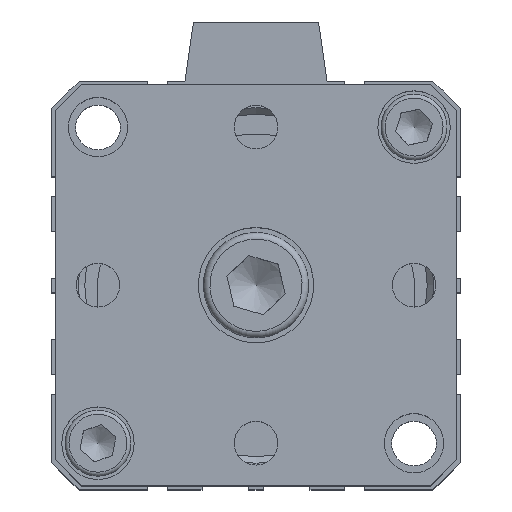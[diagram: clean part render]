
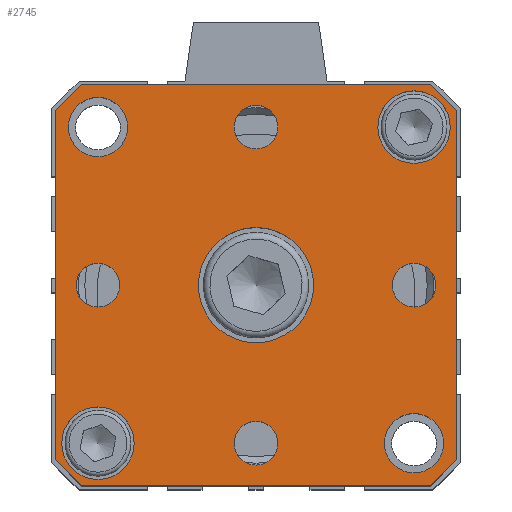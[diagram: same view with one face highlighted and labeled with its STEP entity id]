
A CAD part, top view. The second image highlights one B-rep face of the part: STEP entity #2745.
In plain terms, the highlighted planar face has unit normal (0, 0, 1).
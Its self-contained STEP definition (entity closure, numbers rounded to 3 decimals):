
#365=CARTESIAN_POINT('',(-37.557,28.294,61.6));
#366=VERTEX_POINT('',#365);
#367=CARTESIAN_POINT('',(-33.557,32.294,61.6));
#368=VERTEX_POINT('',#367);
#369=CARTESIAN_POINT('',(-37.557,28.294,61.6));
#370=DIRECTION('',(0.707,0.707,0.0));
#371=VECTOR('',#370,5.657);
#372=LINE('',#369,#371);
#373=EDGE_CURVE('',#366,#368,#372,.T.);
#417=CARTESIAN_POINT('',(19.443,32.294,61.6));
#418=VERTEX_POINT('',#417);
#419=CARTESIAN_POINT('',(-33.557,32.294,61.6));
#420=DIRECTION('',(1.0,0.0,0.0));
#421=VECTOR('',#420,53.);
#422=LINE('',#419,#421);
#423=EDGE_CURVE('',#368,#418,#422,.T.);
#440=CARTESIAN_POINT('',(23.443,28.294,61.6));
#441=VERTEX_POINT('',#440);
#442=CARTESIAN_POINT('',(19.443,32.294,61.6));
#443=DIRECTION('',(0.707,-0.707,0.0));
#444=VECTOR('',#443,5.657);
#445=LINE('',#442,#444);
#446=EDGE_CURVE('',#418,#441,#445,.T.);
#464=CARTESIAN_POINT('',(23.443,-24.706,61.6));
#465=VERTEX_POINT('',#464);
#466=CARTESIAN_POINT('',(19.443,-28.706,61.6));
#467=VERTEX_POINT('',#466);
#468=CARTESIAN_POINT('',(23.443,-24.706,61.6));
#469=DIRECTION('',(-0.707,-0.707,0.0));
#470=VECTOR('',#469,5.657);
#471=LINE('',#468,#470);
#472=EDGE_CURVE('',#465,#467,#471,.T.);
#496=CARTESIAN_POINT('',(-33.557,-28.706,61.6));
#497=VERTEX_POINT('',#496);
#498=CARTESIAN_POINT('',(19.443,-28.706,61.6));
#499=DIRECTION('',(-1.0,0.0,0.0));
#500=VECTOR('',#499,53.);
#501=LINE('',#498,#500);
#502=EDGE_CURVE('',#467,#497,#501,.T.);
#519=CARTESIAN_POINT('',(-37.557,-24.706,61.6));
#520=VERTEX_POINT('',#519);
#521=CARTESIAN_POINT('',(-33.557,-28.706,61.6));
#522=DIRECTION('',(-0.707,0.707,0.0));
#523=VECTOR('',#522,5.657);
#524=LINE('',#521,#523);
#525=EDGE_CURVE('',#497,#520,#524,.T.);
#592=CARTESIAN_POINT('',(1.693,1.794,61.6));
#593=VERTEX_POINT('',#592);
#594=CARTESIAN_POINT('',(-7.057,1.794,61.6));
#595=DIRECTION('',(0.0,0.0,-1.0));
#596=DIRECTION('',(1.0,0.0,0.0));
#597=AXIS2_PLACEMENT_3D('',#594,#595,#596);
#598=CIRCLE('',#597,8.75);
#599=EDGE_CURVE('',#593,#593,#598,.T.);
#711=CARTESIAN_POINT('',(-25.557,-22.206,61.6));
#712=VERTEX_POINT('',#711);
#713=CARTESIAN_POINT('',(-31.057,-22.206,61.6));
#714=DIRECTION('',(0.0,0.0,-1.0));
#715=DIRECTION('',(1.0,0.0,0.0));
#716=AXIS2_PLACEMENT_3D('',#713,#714,#715);
#717=CIRCLE('',#716,5.5);
#718=EDGE_CURVE('',#712,#712,#717,.T.);
#813=CARTESIAN_POINT('',(22.443,25.794,61.6));
#814=VERTEX_POINT('',#813);
#815=CARTESIAN_POINT('',(16.943,25.794,61.6));
#816=DIRECTION('',(0.0,0.0,-1.0));
#817=DIRECTION('',(1.0,0.0,0.0));
#818=AXIS2_PLACEMENT_3D('',#815,#816,#817);
#819=CIRCLE('',#818,5.5);
#820=EDGE_CURVE('',#814,#814,#819,.T.);
#890=CARTESIAN_POINT('',(20.266,1.794,61.6));
#891=VERTEX_POINT('',#890);
#892=CARTESIAN_POINT('',(16.943,1.794,61.6));
#893=DIRECTION('',(0.0,0.0,-1.0));
#894=DIRECTION('',(1.0,0.0,0.0));
#895=AXIS2_PLACEMENT_3D('',#892,#893,#894);
#896=CIRCLE('',#895,3.324);
#897=EDGE_CURVE('',#891,#891,#896,.T.);
#931=CARTESIAN_POINT('',(-3.734,-22.206,61.6));
#932=VERTEX_POINT('',#931);
#933=CARTESIAN_POINT('',(-7.057,-22.206,61.6));
#934=DIRECTION('',(0.0,0.0,-1.0));
#935=DIRECTION('',(1.0,0.0,0.0));
#936=AXIS2_PLACEMENT_3D('',#933,#934,#935);
#937=CIRCLE('',#936,3.324);
#938=EDGE_CURVE('',#932,#932,#937,.T.);
#972=CARTESIAN_POINT('',(-27.734,1.794,61.6));
#973=VERTEX_POINT('',#972);
#974=CARTESIAN_POINT('',(-31.057,1.794,61.6));
#975=DIRECTION('',(0.0,0.0,-1.0));
#976=DIRECTION('',(1.0,0.0,0.0));
#977=AXIS2_PLACEMENT_3D('',#974,#975,#976);
#978=CIRCLE('',#977,3.324);
#979=EDGE_CURVE('',#973,#973,#978,.T.);
#1013=CARTESIAN_POINT('',(-3.734,25.794,61.6));
#1014=VERTEX_POINT('',#1013);
#1015=CARTESIAN_POINT('',(-7.057,25.794,61.6));
#1016=DIRECTION('',(0.0,0.0,-1.0));
#1017=DIRECTION('',(1.0,0.0,0.0));
#1018=AXIS2_PLACEMENT_3D('',#1015,#1016,#1017);
#1019=CIRCLE('',#1018,3.324);
#1020=EDGE_CURVE('',#1014,#1014,#1019,.T.);
#2634=CARTESIAN_POINT('',(21.443,-22.206,61.6));
#2635=VERTEX_POINT('',#2634);
#2636=CARTESIAN_POINT('',(16.943,-22.206,61.6));
#2637=DIRECTION('',(0.0,0.0,-1.0));
#2638=DIRECTION('',(-1.0,0.0,0.0));
#2639=AXIS2_PLACEMENT_3D('',#2636,#2637,#2638);
#2640=CIRCLE('',#2639,4.5);
#2641=EDGE_CURVE('',#2635,#2635,#2640,.T.);
#2654=CARTESIAN_POINT('',(-26.557,25.794,61.6));
#2655=VERTEX_POINT('',#2654);
#2656=CARTESIAN_POINT('',(-31.057,25.794,61.6));
#2657=DIRECTION('',(0.0,0.0,-1.0));
#2658=DIRECTION('',(-1.0,0.0,0.0));
#2659=AXIS2_PLACEMENT_3D('',#2656,#2657,#2658);
#2660=CIRCLE('',#2659,4.5);
#2661=EDGE_CURVE('',#2655,#2655,#2660,.T.);
#2675=CARTESIAN_POINT('',(23.443,28.294,61.6));
#2676=DIRECTION('',(0.0,-1.0,0.0));
#2677=VECTOR('',#2676,53.);
#2678=LINE('',#2675,#2677);
#2679=EDGE_CURVE('',#441,#465,#2678,.T.);
#2694=CARTESIAN_POINT('',(-37.557,-24.706,61.6));
#2695=DIRECTION('',(0.0,1.0,0.0));
#2696=VECTOR('',#2695,53.);
#2697=LINE('',#2694,#2696);
#2698=EDGE_CURVE('',#520,#366,#2697,.T.);
#2703=CARTESIAN_POINT('',(-7.057,1.794,61.6));
#2704=DIRECTION('',(0.0,0.0,1.0));
#2705=DIRECTION('',(1.0,0.0,0.0));
#2706=AXIS2_PLACEMENT_3D('',#2703,#2704,#2705);
#2707=PLANE('',#2706);
#2708=ORIENTED_EDGE('',*,*,#373,.F.);
#2709=ORIENTED_EDGE('',*,*,#2698,.F.);
#2710=ORIENTED_EDGE('',*,*,#525,.F.);
#2711=ORIENTED_EDGE('',*,*,#502,.F.);
#2712=ORIENTED_EDGE('',*,*,#472,.F.);
#2713=ORIENTED_EDGE('',*,*,#2679,.F.);
#2714=ORIENTED_EDGE('',*,*,#446,.F.);
#2715=ORIENTED_EDGE('',*,*,#423,.F.);
#2716=EDGE_LOOP('',(#2708,#2709,#2710,#2711,#2712,#2713,#2714,#2715));
#2717=FACE_OUTER_BOUND('',#2716,.T.);
#2718=ORIENTED_EDGE('',*,*,#599,.T.);
#2719=EDGE_LOOP('',(#2718));
#2720=FACE_BOUND('',#2719,.T.);
#2721=ORIENTED_EDGE('',*,*,#718,.T.);
#2722=EDGE_LOOP('',(#2721));
#2723=FACE_BOUND('',#2722,.T.);
#2724=ORIENTED_EDGE('',*,*,#820,.T.);
#2725=EDGE_LOOP('',(#2724));
#2726=FACE_BOUND('',#2725,.T.);
#2727=ORIENTED_EDGE('',*,*,#897,.T.);
#2728=EDGE_LOOP('',(#2727));
#2729=FACE_BOUND('',#2728,.T.);
#2730=ORIENTED_EDGE('',*,*,#938,.T.);
#2731=EDGE_LOOP('',(#2730));
#2732=FACE_BOUND('',#2731,.T.);
#2733=ORIENTED_EDGE('',*,*,#979,.T.);
#2734=EDGE_LOOP('',(#2733));
#2735=FACE_BOUND('',#2734,.T.);
#2736=ORIENTED_EDGE('',*,*,#1020,.T.);
#2737=EDGE_LOOP('',(#2736));
#2738=FACE_BOUND('',#2737,.T.);
#2739=ORIENTED_EDGE('',*,*,#2641,.T.);
#2740=EDGE_LOOP('',(#2739));
#2741=FACE_BOUND('',#2740,.T.);
#2742=ORIENTED_EDGE('',*,*,#2661,.T.);
#2743=EDGE_LOOP('',(#2742));
#2744=FACE_BOUND('',#2743,.T.);
#2745=ADVANCED_FACE('',(#2717,#2720,#2723,#2726,#2729,#2732,#2735,#2738,#2741,#2744),#2707,.T.);
